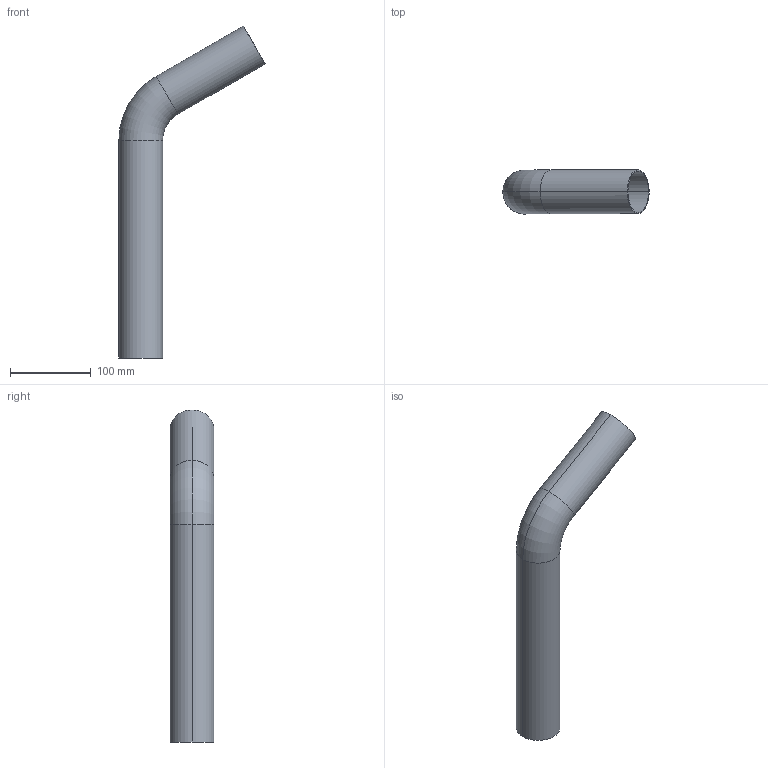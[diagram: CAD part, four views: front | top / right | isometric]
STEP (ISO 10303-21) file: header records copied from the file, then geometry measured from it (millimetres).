
FILE_DESCRIPTION(('OneSpaceDesigner STEP Export'),'2;1');
FILE_NAME('R2724 54x54.stp','2010-06-10T12:58:06',(''),(''),'OneSpace Designer STEP processor for AP214 (Solid Model)','OneSpace Modeling 15.00A 14-Mar-2007 (C) CoCreate Software GmbH','');
FILE_SCHEMA(('AUTOMOTIVE_DESIGN { 1 0 10303 214 1 1 1 1 }'));
Length unit declared in the file: millimetre
Products named in the file (2): R2724_54x54
Assembly tree (1 placements, depth 2):
  R2724_54x54
    R2724_54x54
Bounding box: 180.8 x 54 x 410.38 mm (x, y, z)
Volume: 114054.6 mm3; surface area: 152567.7 mm2
Topology: 1 solids, 1 shells, 14 faces, 30 edges, 18 vertices
Faces by surface type: cylinder 8, torus 4, plane 2
Entity records: 367 total; most frequent: ORIENTED_EDGE 60, DIRECTION 56, CARTESIAN_POINT 50, EDGE_CURVE 30, AXIS2_PLACEMENT_3D 24, VERTEX_POINT 18, EDGE_LOOP 16, CIRCLE 14
